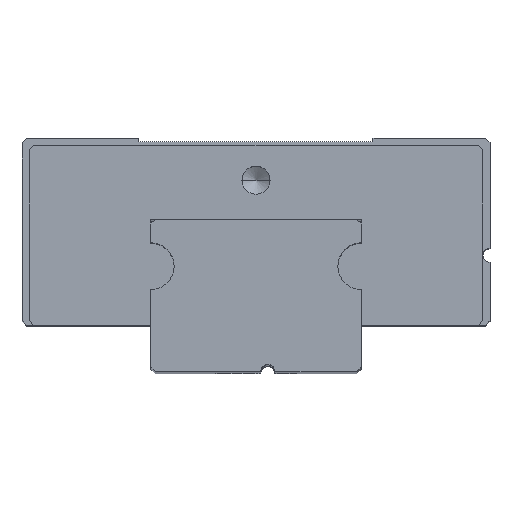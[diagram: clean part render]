
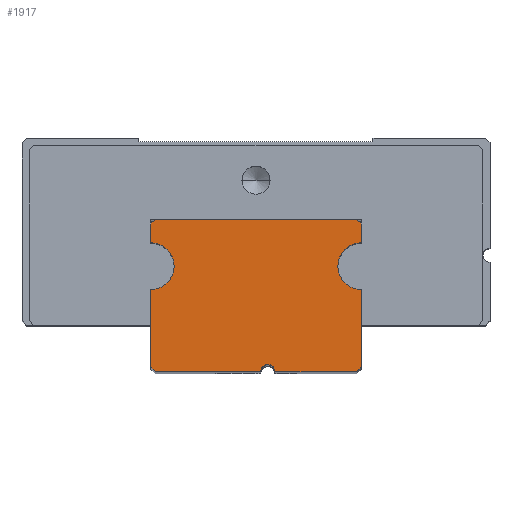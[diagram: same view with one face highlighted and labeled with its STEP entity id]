
A CAD part, top view. The second image highlights one B-rep face of the part: STEP entity #1917.
In plain terms, the highlighted planar face has unit normal (0, 0, 1).
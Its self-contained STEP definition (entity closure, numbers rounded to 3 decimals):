
#15 = EDGE_CURVE ( 'NONE', #6010, #6082, #4465, .T. ) ;
#41 = PLANE ( 'NONE',  #510 ) ;
#53 = EDGE_CURVE ( 'NONE', #3022, #2786, #3091, .T. ) ;
#61 = VERTEX_POINT ( 'NONE', #1121 ) ;
#136 = EDGE_LOOP ( 'NONE', ( #881, #6053, #2868, #791, #988, #2243, #1543, #1549, #4721, #2384, #1451, #5559, #5350, #5254, #4219 ) ) ;
#181 = VERTEX_POINT ( 'NONE', #4342 ) ;
#300 = DIRECTION ( 'NONE',  ( -1., 0., 0. ) ) ;
#355 = CARTESIAN_POINT ( 'NONE',  ( 4.3, 6.5, 27.5 ) ) ;
#422 = DIRECTION ( 'NONE',  ( -1., 0., 0. ) ) ;
#471 = CARTESIAN_POINT ( 'NONE',  ( 0.5, 0., 27.5 ) ) ;
#510 = AXIS2_PLACEMENT_3D ( 'NONE', #471, #1417, #5522 ) ;
#530 = DIRECTION ( 'NONE',  ( 0., -1., 0. ) ) ;
#553 = DIRECTION ( 'NONE',  ( -0.707, -0.707, 0. ) ) ;
#618 = CARTESIAN_POINT ( 'NONE',  ( -4.3, 0., 27.5 ) ) ;
#639 = VECTOR ( 'NONE', #530, 1000. ) ;
#791 = ORIENTED_EDGE ( 'NONE', *, *, #1291, .F. ) ;
#881 = ORIENTED_EDGE ( 'NONE', *, *, #2731, .T. ) ;
#939 = VECTOR ( 'NONE', #3160, 1000. ) ;
#988 = ORIENTED_EDGE ( 'NONE', *, *, #1298, .T. ) ;
#1010 = LINE ( 'NONE', #4461, #639 ) ;
#1097 = EDGE_CURVE ( 'NONE', #6010, #5000, #4457, .T. ) ;
#1121 = CARTESIAN_POINT ( 'NONE',  ( -4.5, 0.2, 27.5 ) ) ;
#1126 = EDGE_CURVE ( 'NONE', #3726, #4971, #1237, .T. ) ;
#1153 = CARTESIAN_POINT ( 'NONE',  ( 4.5, 6.5, 27.5 ) ) ;
#1163 = DIRECTION ( 'NONE',  ( -1., 0., 0. ) ) ;
#1196 = DIRECTION ( 'NONE',  ( 0.707, 0.707, 0. ) ) ;
#1237 = CIRCLE ( 'NONE', #1656, 1. ) ;
#1291 = EDGE_CURVE ( 'NONE', #5068, #3726, #3241, .T. ) ;
#1294 = CARTESIAN_POINT ( 'NONE',  ( -4.3, 0., 27.5 ) ) ;
#1298 = EDGE_CURVE ( 'NONE', #5068, #5000, #3743, .T. ) ;
#1417 = DIRECTION ( 'NONE',  ( 0., 0., -1. ) ) ;
#1451 = ORIENTED_EDGE ( 'NONE', *, *, #4978, .F. ) ;
#1452 = CARTESIAN_POINT ( 'NONE',  ( -4.5, 0., 27.5 ) ) ;
#1505 = CARTESIAN_POINT ( 'NONE',  ( 0.5, 0., 27.5 ) ) ;
#1543 = ORIENTED_EDGE ( 'NONE', *, *, #15, .T. ) ;
#1549 = ORIENTED_EDGE ( 'NONE', *, *, #4667, .T. ) ;
#1555 = LINE ( 'NONE', #618, #3455 ) ;
#1656 = AXIS2_PLACEMENT_3D ( 'NONE', #6208, #2104, #4630 ) ;
#1690 = LINE ( 'NONE', #5115, #6220 ) ;
#1840 = EDGE_CURVE ( 'NONE', #3667, #3492, #3136, .T. ) ;
#1917 = ADVANCED_FACE ( 'NONE', ( #3518 ), #41, .F. ) ;
#1979 = DIRECTION ( 'NONE',  ( 0., 1., 0. ) ) ;
#2051 = CARTESIAN_POINT ( 'NONE',  ( -4.3, 6.5, 27.5 ) ) ;
#2076 = VECTOR ( 'NONE', #2782, 1000. ) ;
#2080 = VERTEX_POINT ( 'NONE', #6048 ) ;
#2086 = CARTESIAN_POINT ( 'NONE',  ( -4.5, 4.5, 27.5 ) ) ;
#2093 = LINE ( 'NONE', #5646, #3800 ) ;
#2104 = DIRECTION ( 'NONE',  ( 0., 0., 1. ) ) ;
#2111 = DIRECTION ( 'NONE',  ( 0., 1., 0. ) ) ;
#2243 = ORIENTED_EDGE ( 'NONE', *, *, #1097, .F. ) ;
#2276 = CARTESIAN_POINT ( 'NONE',  ( 0.2, 0., 27.5 ) ) ;
#2384 = ORIENTED_EDGE ( 'NONE', *, *, #3263, .F. ) ;
#2731 = EDGE_CURVE ( 'NONE', #6295, #181, #1690, .T. ) ;
#2741 = VECTOR ( 'NONE', #1979, 1000. ) ;
#2771 = CARTESIAN_POINT ( 'NONE',  ( -4.5, 6.3, 27.5 ) ) ;
#2782 = DIRECTION ( 'NONE',  ( 0., 1., 0. ) ) ;
#2786 = VERTEX_POINT ( 'NONE', #2771 ) ;
#2815 = DIRECTION ( 'NONE',  ( 0., 0., 1. ) ) ;
#2868 = ORIENTED_EDGE ( 'NONE', *, *, #1126, .F. ) ;
#3013 = AXIS2_PLACEMENT_3D ( 'NONE', #3242, #5735, #5246 ) ;
#3022 = VERTEX_POINT ( 'NONE', #6183 ) ;
#3065 = CARTESIAN_POINT ( 'NONE',  ( 4.5, 5.5, 27.5 ) ) ;
#3082 = DIRECTION ( 'NONE',  ( 0.707, -0.707, 0. ) ) ;
#3091 = LINE ( 'NONE', #5595, #4720 ) ;
#3136 = CIRCLE ( 'NONE', #3013, 0.3 ) ;
#3160 = DIRECTION ( 'NONE',  ( -1., 0., 0. ) ) ;
#3241 = CIRCLE ( 'NONE', #3655, 1. ) ;
#3242 = CARTESIAN_POINT ( 'NONE',  ( 0.5, 0., 27.5 ) ) ;
#3263 = EDGE_CURVE ( 'NONE', #2080, #3022, #4000, .T. ) ;
#3288 = CARTESIAN_POINT ( 'NONE',  ( 4.5, 4.5, 27.5 ) ) ;
#3434 = CARTESIAN_POINT ( 'NONE',  ( 0.8, 0., 27.5 ) ) ;
#3436 = LINE ( 'NONE', #4514, #4165 ) ;
#3453 = DIRECTION ( 'NONE',  ( -1., 0., 0. ) ) ;
#3455 = VECTOR ( 'NONE', #4615, 1000. ) ;
#3463 = CARTESIAN_POINT ( 'NONE',  ( 4.5, 6.3, 27.5 ) ) ;
#3492 = VERTEX_POINT ( 'NONE', #3434 ) ;
#3518 = FACE_OUTER_BOUND ( 'NONE', #136, .T. ) ;
#3655 = AXIS2_PLACEMENT_3D ( 'NONE', #3288, #2815, #300 ) ;
#3667 = VERTEX_POINT ( 'NONE', #2276 ) ;
#3726 = VERTEX_POINT ( 'NONE', #4371 ) ;
#3743 = LINE ( 'NONE', #5288, #2076 ) ;
#3766 = VERTEX_POINT ( 'NONE', #1294 ) ;
#3800 = VECTOR ( 'NONE', #553, 1000. ) ;
#3844 = EDGE_CURVE ( 'NONE', #3667, #3766, #4533, .T. ) ;
#4000 = CIRCLE ( 'NONE', #4526, 1. ) ;
#4165 = VECTOR ( 'NONE', #422, 1000. ) ;
#4219 = ORIENTED_EDGE ( 'NONE', *, *, #4586, .F. ) ;
#4342 = CARTESIAN_POINT ( 'NONE',  ( 4.5, 0.2, 27.5 ) ) ;
#4371 = CARTESIAN_POINT ( 'NONE',  ( 3.5, 4.5, 27.5 ) ) ;
#4432 = CARTESIAN_POINT ( 'NONE',  ( 4.3, 0., 27.5 ) ) ;
#4457 = LINE ( 'NONE', #5686, #5537 ) ;
#4461 = CARTESIAN_POINT ( 'NONE',  ( 4.5, 0., 27.5 ) ) ;
#4465 = LINE ( 'NONE', #1153, #939 ) ;
#4472 = VECTOR ( 'NONE', #3453, 1000. ) ;
#4514 = CARTESIAN_POINT ( 'NONE',  ( 0.5, 0., 27.5 ) ) ;
#4526 = AXIS2_PLACEMENT_3D ( 'NONE', #2086, #6094, #1163 ) ;
#4533 = LINE ( 'NONE', #1505, #4472 ) ;
#4586 = EDGE_CURVE ( 'NONE', #6295, #3492, #3436, .T. ) ;
#4615 = DIRECTION ( 'NONE',  ( 0.707, -0.707, 0. ) ) ;
#4630 = DIRECTION ( 'NONE',  ( -1., 0., 0. ) ) ;
#4667 = EDGE_CURVE ( 'NONE', #6082, #2786, #2093, .T. ) ;
#4720 = VECTOR ( 'NONE', #2111, 1000. ) ;
#4721 = ORIENTED_EDGE ( 'NONE', *, *, #53, .F. ) ;
#4971 = VERTEX_POINT ( 'NONE', #5894 ) ;
#4978 = EDGE_CURVE ( 'NONE', #61, #2080, #6347, .T. ) ;
#5000 = VERTEX_POINT ( 'NONE', #3463 ) ;
#5068 = VERTEX_POINT ( 'NONE', #3065 ) ;
#5115 = CARTESIAN_POINT ( 'NONE',  ( 4.5, 0.2, 27.5 ) ) ;
#5246 = DIRECTION ( 'NONE',  ( -1., 0., 0. ) ) ;
#5254 = ORIENTED_EDGE ( 'NONE', *, *, #1840, .T. ) ;
#5288 = CARTESIAN_POINT ( 'NONE',  ( 4.5, 5.5, 27.5 ) ) ;
#5350 = ORIENTED_EDGE ( 'NONE', *, *, #3844, .F. ) ;
#5522 = DIRECTION ( 'NONE',  ( 0., -1., 0. ) ) ;
#5537 = VECTOR ( 'NONE', #3082, 1000. ) ;
#5559 = ORIENTED_EDGE ( 'NONE', *, *, #6103, .T. ) ;
#5595 = CARTESIAN_POINT ( 'NONE',  ( -4.5, 0., 27.5 ) ) ;
#5646 = CARTESIAN_POINT ( 'NONE',  ( -4.5, 6.3, 27.5 ) ) ;
#5686 = CARTESIAN_POINT ( 'NONE',  ( 4.3, 6.5, 27.5 ) ) ;
#5735 = DIRECTION ( 'NONE',  ( 0., 0., -1. ) ) ;
#5894 = CARTESIAN_POINT ( 'NONE',  ( 4.5, 3.5, 27.5 ) ) ;
#6010 = VERTEX_POINT ( 'NONE', #355 ) ;
#6048 = CARTESIAN_POINT ( 'NONE',  ( -4.5, 3.5, 27.5 ) ) ;
#6053 = ORIENTED_EDGE ( 'NONE', *, *, #6306, .F. ) ;
#6082 = VERTEX_POINT ( 'NONE', #2051 ) ;
#6094 = DIRECTION ( 'NONE',  ( 0., 0., 1. ) ) ;
#6103 = EDGE_CURVE ( 'NONE', #61, #3766, #1555, .T. ) ;
#6183 = CARTESIAN_POINT ( 'NONE',  ( -4.5, 5.5, 27.5 ) ) ;
#6208 = CARTESIAN_POINT ( 'NONE',  ( 4.5, 4.5, 27.5 ) ) ;
#6220 = VECTOR ( 'NONE', #1196, 1000. ) ;
#6295 = VERTEX_POINT ( 'NONE', #4432 ) ;
#6306 = EDGE_CURVE ( 'NONE', #4971, #181, #1010, .T. ) ;
#6347 = LINE ( 'NONE', #1452, #2741 ) ;
